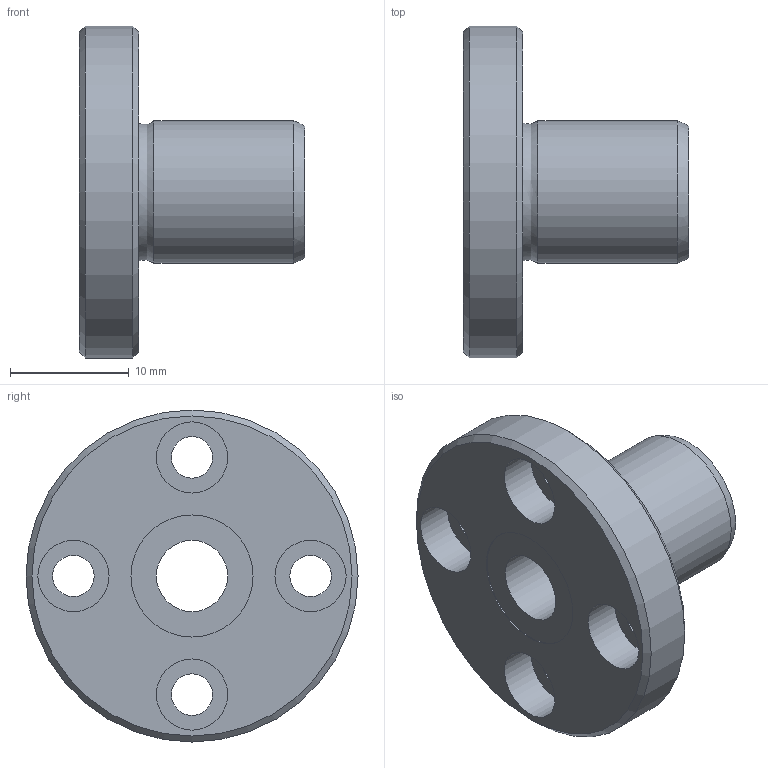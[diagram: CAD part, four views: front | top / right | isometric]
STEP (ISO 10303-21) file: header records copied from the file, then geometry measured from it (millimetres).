
FILE_DESCRIPTION((''),'2;1');
FILE_NAME('D:\製品 (図面)\カタログ用3D\リニアベアリング関連\STEP形式\LF\LF6.stp','2010-06-03T09:10:59',('Tsuchiya'),(''),'Autodesk Inventor 10','Autodesk Inventor 10','');
FILE_SCHEMA(('AUTOMOTIVE_DESIGN { 1 0 10303 214 1 1 1 1 }'));
Length unit declared in the file: millimetre
Products named in the file (1): LF6
Bounding box: 19 x 28 x 28 mm (x, y, z)
Volume: 3643.3 mm3; surface area: 2689.7 mm2
Topology: 1 solids, 1 shells, 26 faces, 47 edges, 30 vertices
Faces by surface type: cylinder 13, plane 9, cone 2, bspline 2
Full cylindrical faces by diameter (mm): 3.5 x4, 6 x5, 10.3 x2, 12 x1, 28 x1
Entity records: 687 total; most frequent: CARTESIAN_POINT 175, DIRECTION 110, ORIENTED_EDGE 60, EDGE_LOOP 60, AXIS2_PLACEMENT_3D 55, FACE_BOUND 34, VERTEX_POINT 30, CIRCLE 30
